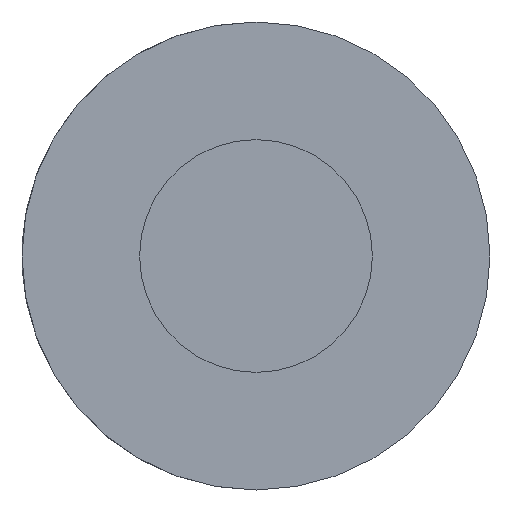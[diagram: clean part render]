
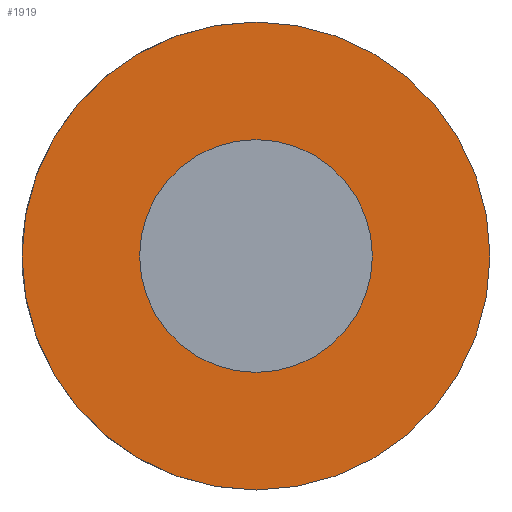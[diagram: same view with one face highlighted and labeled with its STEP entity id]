
A CAD part, left-side view. The second image highlights one B-rep face of the part: STEP entity #1919.
In plain terms, the highlighted planar face has unit normal (-1, 0, 0).
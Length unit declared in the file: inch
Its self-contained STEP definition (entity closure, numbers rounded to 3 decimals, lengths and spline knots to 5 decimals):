
#152 = CIRCLE ( 'NONE', #1168, 0.59055 ) ;
#185 = DIRECTION ( 'NONE',  ( 1., 0., 0. ) ) ;
#203 = CARTESIAN_POINT ( 'NONE',  ( 2.88838, -1.1875, 0. ) ) ;
#219 = DIRECTION ( 'NONE',  ( 0., 0., -1. ) ) ;
#313 = EDGE_CURVE ( 'NONE', #1681, #1954, #1026, .T. ) ;
#540 = CIRCLE ( 'NONE', #1757, 1.1875 ) ;
#547 = PLANE ( 'NONE',  #1982 ) ;
#556 = CARTESIAN_POINT ( 'NONE',  ( 2.88838, -1.1875, 0. ) ) ;
#580 = CARTESIAN_POINT ( 'NONE',  ( 2.88838, -1.1875, -0.59055 ) ) ;
#595 = CIRCLE ( 'NONE', #1874, 1.1875 ) ;
#663 = ORIENTED_EDGE ( 'NONE', *, *, #1148, .F. ) ;
#718 = DIRECTION ( 'NONE',  ( 1., 0., 0. ) ) ;
#786 = EDGE_LOOP ( 'NONE', ( #968, #663 ) ) ;
#818 = DIRECTION ( 'NONE',  ( 0., 0., -1. ) ) ;
#825 = DIRECTION ( 'NONE',  ( 0., 0., -1. ) ) ;
#871 = EDGE_CURVE ( 'NONE', #1954, #1681, #152, .T. ) ;
#948 = CARTESIAN_POINT ( 'NONE',  ( 2.88838, -1.1875, 0. ) ) ;
#968 = ORIENTED_EDGE ( 'NONE', *, *, #1397, .F. ) ;
#1026 = CIRCLE ( 'NONE', #1340, 0.59055 ) ;
#1030 = DIRECTION ( 'NONE',  ( 1., 0., 0. ) ) ;
#1129 = DIRECTION ( 'NONE',  ( 0., 0., -1. ) ) ;
#1148 = EDGE_CURVE ( 'NONE', #1698, #1785, #595, .T. ) ;
#1168 = AXIS2_PLACEMENT_3D ( 'NONE', #203, #1557, #219 ) ;
#1226 = ORIENTED_EDGE ( 'NONE', *, *, #871, .T. ) ;
#1274 = CARTESIAN_POINT ( 'NONE',  ( 2.88838, -1.1875, -1.1875 ) ) ;
#1296 = DIRECTION ( 'NONE',  ( 1., 0., 0. ) ) ;
#1320 = FACE_OUTER_BOUND ( 'NONE', #786, .T. ) ;
#1340 = AXIS2_PLACEMENT_3D ( 'NONE', #1860, #1030, #825 ) ;
#1397 = EDGE_CURVE ( 'NONE', #1785, #1698, #540, .T. ) ;
#1430 = EDGE_LOOP ( 'NONE', ( #1226, #1642 ) ) ;
#1533 = FACE_BOUND ( 'NONE', #1430, .T. ) ;
#1557 = DIRECTION ( 'NONE',  ( 1., 0., 0. ) ) ;
#1642 = ORIENTED_EDGE ( 'NONE', *, *, #313, .T. ) ;
#1681 = VERTEX_POINT ( 'NONE', #580 ) ;
#1698 = VERTEX_POINT ( 'NONE', #1274 ) ;
#1757 = AXIS2_PLACEMENT_3D ( 'NONE', #2188, #185, #818 ) ;
#1776 = DIRECTION ( 'NONE',  ( 0., 0., -1. ) ) ;
#1785 = VERTEX_POINT ( 'NONE', #2201 ) ;
#1860 = CARTESIAN_POINT ( 'NONE',  ( 2.88838, -1.1875, 0. ) ) ;
#1874 = AXIS2_PLACEMENT_3D ( 'NONE', #948, #1296, #1129 ) ;
#1919 = ADVANCED_FACE ( 'NONE', ( #1533, #1320 ), #547, .F. ) ;
#1947 = CARTESIAN_POINT ( 'NONE',  ( 2.88838, -1.1875, 0.59055 ) ) ;
#1954 = VERTEX_POINT ( 'NONE', #1947 ) ;
#1982 = AXIS2_PLACEMENT_3D ( 'NONE', #556, #718, #1776 ) ;
#2188 = CARTESIAN_POINT ( 'NONE',  ( 2.88838, -1.1875, 0. ) ) ;
#2201 = CARTESIAN_POINT ( 'NONE',  ( 2.88838, -1.1875, 1.1875 ) ) ;
